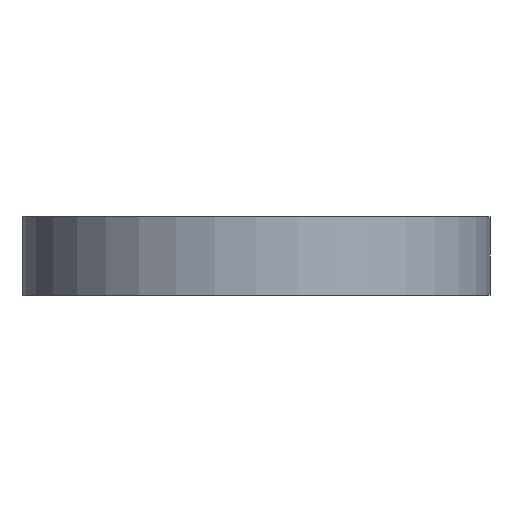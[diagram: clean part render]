
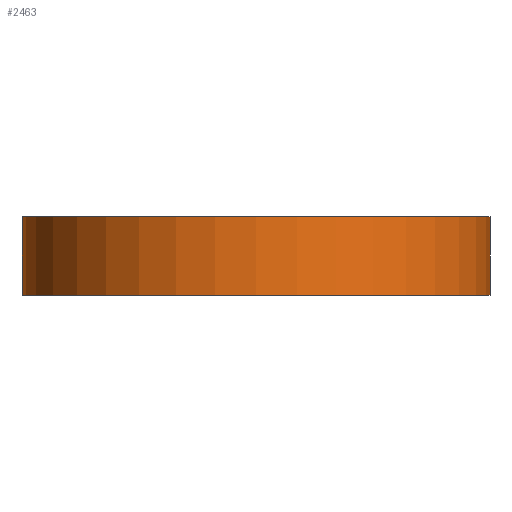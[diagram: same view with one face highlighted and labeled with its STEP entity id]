
A CAD part, front view. The second image highlights one B-rep face of the part: STEP entity #2463.
In plain terms, the highlighted cylindrical face has radius 38 mm (diameter 76 mm), a partial arc.
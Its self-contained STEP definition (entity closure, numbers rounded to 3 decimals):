
#45 = DIRECTION ( 'NONE',  ( 0., 0., 1. ) ) ;
#75 = CARTESIAN_POINT ( 'NONE',  ( -38., 0., 12.7 ) ) ;
#220 = CARTESIAN_POINT ( 'NONE',  ( -38., 0., 12.7 ) ) ;
#623 = CARTESIAN_POINT ( 'NONE',  ( 0., 0., 12.7 ) ) ;
#647 = EDGE_CURVE ( 'NONE', #2213, #1600, #2715, .T. ) ;
#668 = DIRECTION ( 'NONE',  ( 1., 0., 0. ) ) ;
#720 = EDGE_CURVE ( 'NONE', #1458, #1600, #1865, .T. ) ;
#815 = CIRCLE ( 'NONE', #1534, 38. ) ;
#879 = VECTOR ( 'NONE', #3372, 1000. ) ;
#899 = DIRECTION ( 'NONE',  ( -1., 0., 0. ) ) ;
#937 = DIRECTION ( 'NONE',  ( 0., 0., 1. ) ) ;
#1333 = CARTESIAN_POINT ( 'NONE',  ( 38., 0., 12.7 ) ) ;
#1436 = EDGE_LOOP ( 'NONE', ( #2849, #2040, #2320, #2608 ) ) ;
#1458 = VERTEX_POINT ( 'NONE', #2884 ) ;
#1534 = AXIS2_PLACEMENT_3D ( 'NONE', #1642, #45, #1903 ) ;
#1584 = EDGE_CURVE ( 'NONE', #1851, #2213, #815, .T. ) ;
#1599 = CARTESIAN_POINT ( 'NONE',  ( 38., 0., 12.7 ) ) ;
#1600 = VERTEX_POINT ( 'NONE', #2685 ) ;
#1642 = CARTESIAN_POINT ( 'NONE',  ( 0., 0., 12.7 ) ) ;
#1791 = AXIS2_PLACEMENT_3D ( 'NONE', #2526, #937, #668 ) ;
#1821 = CYLINDRICAL_SURFACE ( 'NONE', #2530, 38. ) ;
#1851 = VERTEX_POINT ( 'NONE', #75 ) ;
#1865 = CIRCLE ( 'NONE', #1791, 38. ) ;
#1903 = DIRECTION ( 'NONE',  ( 1., 0., 0. ) ) ;
#1907 = DIRECTION ( 'NONE',  ( 0., 0., -1. ) ) ;
#1913 = FACE_OUTER_BOUND ( 'NONE', #1436, .T. ) ;
#2035 = EDGE_CURVE ( 'NONE', #1851, #1458, #2285, .T. ) ;
#2040 = ORIENTED_EDGE ( 'NONE', *, *, #1584, .F. ) ;
#2213 = VERTEX_POINT ( 'NONE', #1599 ) ;
#2285 = LINE ( 'NONE', #220, #879 ) ;
#2320 = ORIENTED_EDGE ( 'NONE', *, *, #2035, .T. ) ;
#2463 = ADVANCED_FACE ( 'NONE', ( #1913 ), #1821, .T. ) ;
#2526 = CARTESIAN_POINT ( 'NONE',  ( 0., 0., 0. ) ) ;
#2530 = AXIS2_PLACEMENT_3D ( 'NONE', #623, #3258, #899 ) ;
#2608 = ORIENTED_EDGE ( 'NONE', *, *, #720, .T. ) ;
#2685 = CARTESIAN_POINT ( 'NONE',  ( 38., 0., 0. ) ) ;
#2715 = LINE ( 'NONE', #1333, #3408 ) ;
#2849 = ORIENTED_EDGE ( 'NONE', *, *, #647, .F. ) ;
#2884 = CARTESIAN_POINT ( 'NONE',  ( -38., 0., 0. ) ) ;
#3258 = DIRECTION ( 'NONE',  ( 0., 0., -1. ) ) ;
#3372 = DIRECTION ( 'NONE',  ( 0., 0., -1. ) ) ;
#3408 = VECTOR ( 'NONE', #1907, 1000. ) ;
